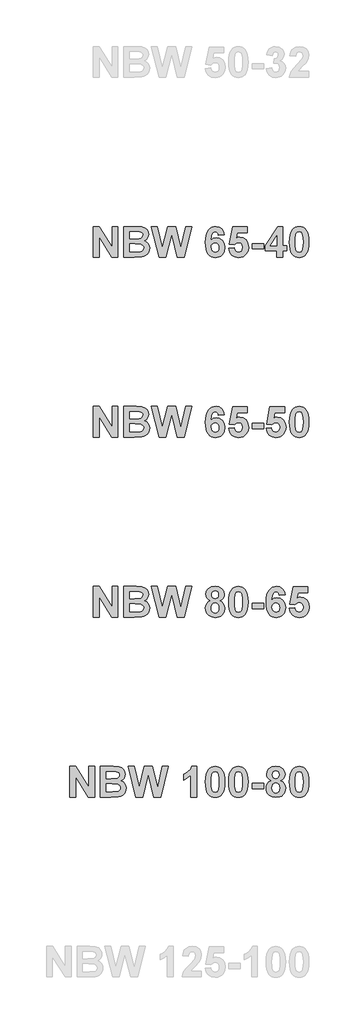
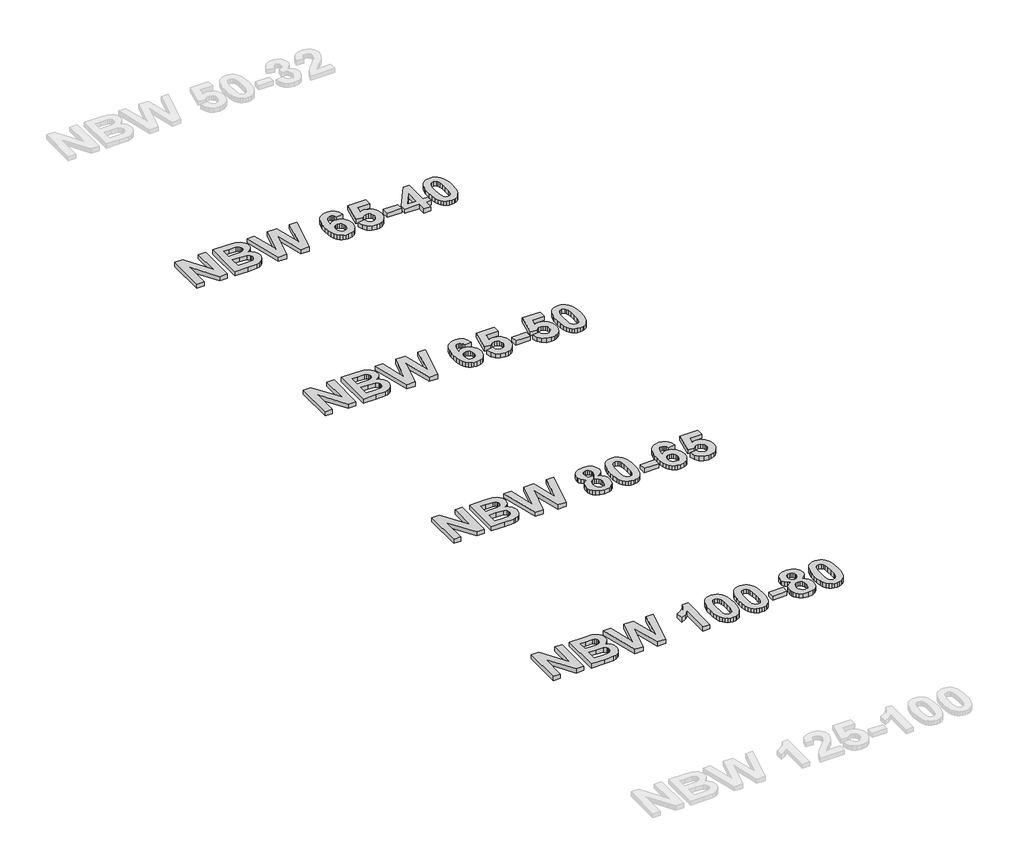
# One storey, part 4 of 9: 4 proxies.
"""IFC4 building model written with IfcOpenShell, lengths in millimetres."""

from ifc_helpers import new_model, si_unit, origin, origin_with_axes, place, context, project, spatial, polyline, outline, extrude, element, save

model = new_model("IFC4")

# Units and contexts
model_context = context("Model", 3, world=origin())
ifc_project = project(units=[si_unit("LENGTHUNIT", "METRE", prefix="MILLI")], contexts=[model_context])

# Site, building, storey
site = spatial("IfcSite", under=ifc_project)
building = spatial("IfcBuilding", under=site)
storey = spatial("IfcBuildingStorey", under=building, Name="Этаж 01", Elevation=0.0)

# Proxies
placement = place(None, origin())
element("IfcBuildingElementProxy", 1, Name="Wellmix_Надпись1", ObjectType="Wellmix_Надпись1", at=placement, inside=storey, context=model_context, shape_type="SweptSolid", body=[
    extrude(outline(polyline([(23054.8220227, -51106.2393741), (23054.8220227, -50851.1745242), (23105.7464286, -50851.1745242), (23212.7193108, -51022.8625209), (23212.7193108, -50851.1745242), (23261.3030918, -50851.1745242), (23261.3030918, -51106.2393741), (23208.7971827, -51106.2393741), (23103.4058037, -50937.0817827), (23103.4058037, -51106.2393741), (23054.8220227, -51106.2393741)])), origin_with_axes(), (0.0, 0.0, 1.0), 30.0),
    extrude(outline(polyline([(23309.8868727, -50851.1745242), (23414.5823903, -50851.1745242), (23460.9204366, -50853.7049294), (23488.2488133, -50864.3010014), (23499.2956138, -50873.695131), (23508.3339051, -50885.746186), (23514.3594326, -50899.940178), (23516.3679418, -50915.7631184), (23513.9719643, -50933.0015042), (23506.7840319, -50948.784907), (23495.4841909, -50961.9588294), (23480.7524878, -50971.3687739), (23499.3825965, -50980.5098629), (23513.1416751, -50994.3954617), (23521.6343477, -51012.0924835), (23524.4652386, -51032.6678413), (23522.4330069, -51049.7559843), (23516.3363117, -51066.3538613), (23506.7207717, -51081.0618418), (23494.1320056, -51092.4802956), (23478.4197704, -51100.3799045), (23459.4338235, -51104.5313506), (23397.0593339, -51106.2393741), (23309.8868727, -51106.2393741), (23309.8868727, -50851.1745242)]), holes=[polyline([(23358.4706537, -50895.7096567), (23358.4706537, -50952.3907345), (23395.5410907, -50952.3907345), (23436.6601762, -50951.5683528), (23449.6047805, -50948.6109416), (23459.4654535, -50942.7751945), (23465.704484, -50934.345782), (23467.7841608, -50923.6073747), (23465.9891546, -50913.3355108), (23460.6041359, -50905.1670463), (23451.6923649, -50899.449912), (23439.3171017, -50896.5320384), (23390.9863612, -50895.7096567), (23358.4706537, -50895.7096567)]), polyline([(23358.4706537, -50996.925867), (23358.4706537, -51061.7042416), (23409.8378804, -51061.7042416), (23447.9204795, -51060.1859985), (23459.1649679, -51056.7936739), (23468.1004615, -51050.5388284), (23473.9362086, -51041.5479822), (23475.8814576, -51029.9476556), (23474.3790295, -51019.8892947), (23469.8717452, -51011.4756972), (23452.5384691, -51000.4051742), (23403.3220869, -50996.925867), (23358.4706537, -50996.925867)])]), origin_with_axes(), (0.0, 0.0, 1.0), 30.0),
    extrude(outline(polyline([(23604.8688657, -51106.2393741), (23540.6598322, -50851.1745242), (23590.5088158, -50851.1745242), (23631.7544215, -51026.4050883), (23676.0997737, -50851.1745242), (23741.4474895, -50851.1745242), (23785.6030612, -51029.3150543), (23826.8486669, -50851.1745242), (23876.6976505, -50851.1745242), (23813.437519, -51106.2393741), (23755.9340596, -51106.2393741), (23708.6787414, -50915.573338), (23660.4745212, -51106.2393741), (23604.8688657, -51106.2393741)])), origin_with_axes(), (0.0, 0.0, 1.0), 30.0),
    extrude(outline(polyline([(24147.9570941, -50918.8628648), (24099.3733132, -50924.0501956), (24096.400087, -50911.4535219), (24090.7699353, -50902.6366411), (24082.7675287, -50897.4414028), (24072.6775377, -50895.7096567), (24059.0766094, -50899.0703512), (24047.7530459, -50909.1524346), (24039.4501537, -50929.9887404), (24034.9112392, -50965.6121019), (24054.9330708, -50949.6231037), (24079.3198515, -50944.2934376), (24107.1464018, -50949.9868495), (24130.6554482, -50967.067085), (24146.6681689, -50993.1460742), (24152.0057425, -51025.8357471), (24146.5495562, -51060.2729811), (24139.7293233, -51074.6626842), (24130.1809972, -51087.1664445), (24118.4897341, -51097.2821349), (24105.2406904, -51104.507628), (24074.0692606, -51110.2880226), (24056.5382967, -51108.4218487), (24040.6362811, -51102.823327), (24026.363214, -51093.4924577), (24013.7190952, -51080.4292405), (24003.3681562, -51063.1157333), (23995.9746283, -51041.0339937), (23991.5385116, -51014.1840216), (23990.059806, -50982.5658172), (23991.6037486, -50950.1133697), (23996.2355764, -50922.5319524), (24003.9552893, -50899.8215652), (24014.7628874, -50881.9822082), (24028.0376306, -50868.5038464), (24043.1587789, -50858.8764452), (24060.1263323, -50853.1000044), (24078.9402907, -50851.1745242), (24104.2601583, -50855.5078432), (24124.803886, -50868.5078002), (24139.6700169, -50889.7632043), (24147.9570941, -50918.8628648)]), holes=[polyline([(24038.643587, -51024.7603248), (24041.2688824, -51042.1805835), (24049.1447688, -51055.0935579), (24060.3892572, -51063.088057), (24073.1203586, -51065.75289), (24085.0132633, -51063.5704155), (24094.7553236, -51057.0229919), (24101.2553021, -51045.4938329), (24103.4219616, -51028.3661523), (24101.0892442, -51010.6137779), (24094.0910922, -50998.34922), (24083.5978179, -50991.2087326), (24070.7797338, -50988.8285702), (24058.3412104, -50991.1059349), (24047.9744564, -50997.9380291), (24040.9763043, -51009.1983325), (24038.643587, -51024.7603248)])]), origin_with_axes(), (0.0, 0.0, 1.0), 30.0),
    extrude(outline(polyline([(24184.3949298, -51034.439125), (24228.9300624, -51029.3150543), (24233.073601, -51044.3867806), (24241.3290481, -51055.9475696), (24252.4312012, -51063.3015599), (24265.1148576, -51065.75289), (24279.3088496, -51063.1513171), (24291.1464017, -51055.3465984), (24299.1409008, -51042.3071038), (24301.8057338, -51024.0012033), (24299.3306812, -51006.8418926), (24291.9055232, -50994.5852421), (24280.5107921, -50987.2312519), (24266.1270197, -50984.7799218), (24247.3071306, -50989.8407323), (24230.5748258, -51005.0231638), (24188.4435783, -50998.7604108), (24216.7841171, -50855.2231726), (24338.2435695, -50855.2231726), (24338.2435695, -50903.8069535), (24256.0686588, -50903.8069535), (24246.2633384, -50950.1766299), (24261.7462556, -50942.7277494), (24277.5771035, -50940.2447892), (24305.6962319, -50945.9935537), (24329.1973707, -50963.239847), (24345.0914787, -50989.6588594), (24350.3895148, -51022.925781), (24345.9771206, -51051.8514761), (24332.7399381, -51077.5192745), (24319.5225244, -51091.8556018), (24303.9723933, -51102.0958355), (24286.0895449, -51108.2399758), (24265.8739791, -51110.2880226), (24234.8686072, -51105.1481369), (24210.1734334, -51089.7284798), (24192.9587701, -51065.6263698), (24184.3949298, -51034.439125)])), origin_with_axes(), (0.0, 0.0, 1.0), 30.0),
    extrude(outline(polyline([(24378.7300536, -51037.4123511), (24378.7300536, -50992.8772186), (24475.8976155, -50992.8772186), (24475.8976155, -51037.4123511), (24378.7300536, -51037.4123511)])), origin_with_axes(), (0.0, 0.0, 1.0), 30.0),
    extrude(outline(polyline([(24585.2111227, -51106.2393741), (24585.2111227, -51053.6069448), (24488.0435608, -51053.6069448), (24488.0435608, -51013.3102411), (24591.6636561, -50855.2231726), (24633.7949036, -50855.2231726), (24633.7949036, -51013.1204607), (24666.1840909, -51013.1204607), (24666.1840909, -51053.6069448), (24633.7949036, -51053.6069448), (24633.7949036, -51106.2393741), (24585.2111227, -51106.2393741)]), holes=[polyline([(24585.2111227, -51013.1204607), (24585.2111227, -50930.2496885), (24530.9339299, -51013.1204607), (24585.2111227, -51013.1204607)])]), origin_with_axes(), (0.0, 0.0, 1.0), 30.0),
    extrude(outline(polyline([(24771.4489497, -50851.1745242), (24788.580584, -50852.8192876), (24803.7274317, -50857.7535778), (24816.8894928, -50865.9773949), (24828.0667673, -50877.4907388), (24838.7221457, -50895.6187203), (24846.3331303, -50918.8786798), (24850.899721, -50947.2706176), (24852.4219179, -50980.7945335), (24850.8918135, -51014.2868193), (24846.3015002, -51042.7103871), (24838.650978, -51066.0652369), (24827.940247, -51084.3513687), (24816.8183252, -51095.6986547), (24803.6958017, -51103.8038591), (24788.5726765, -51108.6669817), (24771.4489497, -51110.2880226), (24754.1413731, -51108.5088314), (24738.5932189, -51103.1712578), (24724.8044871, -51094.2753018), (24712.7751777, -51081.8209634), (24703.0192793, -51064.8000343), (24696.0507805, -51042.2043061), (24691.8696812, -51014.0337788), (24690.4759814, -50980.2884524), (24692.0060858, -50946.9622244), (24696.5963991, -50918.6572694), (24704.2469213, -50895.3735872), (24714.9576523, -50877.111178), (24726.0795741, -50865.763892), (24739.2020977, -50857.6586876), (24754.3252228, -50852.795565), (24771.4489497, -50851.1745242)]), holes=[polyline([(24771.4489497, -50895.7096567), (24755.254356, -50901.0551378), (24748.9283429, -50908.5277408), (24744.2470931, -50920.2545877), (24740.3565951, -50944.4041429), (24739.0597624, -50980.7945335), (24740.2142598, -51016.7025656), (24743.677752, -51039.278525), (24748.9046203, -51052.5315225), (24755.3492462, -51060.470669), (24771.4489497, -51065.75289), (24787.6435433, -51060.4074089), (24793.9695565, -51052.9348059), (24798.6508062, -51041.207959), (24802.5413043, -51017.1849241), (24803.838137, -50980.7945335), (24802.6836396, -50944.926039), (24799.2201474, -50922.342172), (24793.993279, -50909.0496369), (24787.5486531, -50901.0551378), (24771.4489497, -50895.7096567)])]), origin_with_axes(), (0.0, 0.0, 1.0), 30.0),
])
element("IfcBuildingElementProxy", 2, Name="Wellmix_Надпись1", ObjectType="Wellmix_Надпись1", at=placement, inside=storey, context=model_context, shape_type="SweptSolid", body=[
    extrude(outline(polyline([(23054.8220227, -52606.2393741), (23054.8220227, -52351.1745242), (23105.7464286, -52351.1745242), (23212.7193108, -52522.8625209), (23212.7193108, -52351.1745242), (23261.3030918, -52351.1745242), (23261.3030918, -52606.2393741), (23208.7971827, -52606.2393741), (23103.4058037, -52437.0817827), (23103.4058037, -52606.2393741), (23054.8220227, -52606.2393741)])), origin_with_axes(), (0.0, 0.0, 1.0), 30.0),
    extrude(outline(polyline([(23309.8868727, -52351.1745242), (23414.5823903, -52351.1745242), (23460.9204366, -52353.7049294), (23488.2488133, -52364.3010014), (23499.2956138, -52373.695131), (23508.3339051, -52385.746186), (23514.3594326, -52399.940178), (23516.3679418, -52415.7631184), (23513.9719643, -52433.0015042), (23506.7840319, -52448.784907), (23495.4841909, -52461.9588294), (23480.7524878, -52471.3687739), (23499.3825965, -52480.5098629), (23513.1416751, -52494.3954617), (23521.6343477, -52512.0924835), (23524.4652386, -52532.6678413), (23522.4330069, -52549.7559843), (23516.3363117, -52566.3538613), (23506.7207717, -52581.0618418), (23494.1320056, -52592.4802956), (23478.4197704, -52600.3799045), (23459.4338235, -52604.5313506), (23397.0593339, -52606.2393741), (23309.8868727, -52606.2393741), (23309.8868727, -52351.1745242)]), holes=[polyline([(23358.4706537, -52395.7096567), (23358.4706537, -52452.3907345), (23395.5410907, -52452.3907345), (23436.6601762, -52451.5683528), (23449.6047805, -52448.6109416), (23459.4654535, -52442.7751945), (23465.704484, -52434.345782), (23467.7841608, -52423.6073747), (23465.9891546, -52413.3355108), (23460.6041359, -52405.1670463), (23451.6923649, -52399.449912), (23439.3171017, -52396.5320384), (23390.9863612, -52395.7096567), (23358.4706537, -52395.7096567)]), polyline([(23358.4706537, -52496.925867), (23358.4706537, -52561.7042416), (23409.8378804, -52561.7042416), (23447.9204795, -52560.1859985), (23459.1649679, -52556.7936739), (23468.1004615, -52550.5388284), (23473.9362086, -52541.5479822), (23475.8814576, -52529.9476556), (23474.3790295, -52519.8892947), (23469.8717452, -52511.4756972), (23452.5384691, -52500.4051742), (23403.3220869, -52496.925867), (23358.4706537, -52496.925867)])]), origin_with_axes(), (0.0, 0.0, 1.0), 30.0),
    extrude(outline(polyline([(23604.8688657, -52606.2393741), (23540.6598322, -52351.1745242), (23590.5088158, -52351.1745242), (23631.7544215, -52526.4050883), (23676.0997737, -52351.1745242), (23741.4474895, -52351.1745242), (23785.6030612, -52529.3150543), (23826.8486669, -52351.1745242), (23876.6976505, -52351.1745242), (23813.437519, -52606.2393741), (23755.9340596, -52606.2393741), (23708.6787414, -52415.573338), (23660.4745212, -52606.2393741), (23604.8688657, -52606.2393741)])), origin_with_axes(), (0.0, 0.0, 1.0), 30.0),
    extrude(outline(polyline([(24147.9570941, -52418.8628648), (24099.3733132, -52424.0501956), (24096.400087, -52411.4535219), (24090.7699353, -52402.6366411), (24082.7675287, -52397.4414028), (24072.6775377, -52395.7096567), (24059.0766094, -52399.0703512), (24047.7530459, -52409.1524346), (24039.4501537, -52429.9887404), (24034.9112392, -52465.6121019), (24054.9330708, -52449.6231037), (24079.3198515, -52444.2934376), (24107.1464018, -52449.9868495), (24130.6554482, -52467.067085), (24146.6681689, -52493.1460742), (24152.0057425, -52525.8357471), (24146.5495562, -52560.2729811), (24139.7293233, -52574.6626842), (24130.1809972, -52587.1664445), (24118.4897341, -52597.2821349), (24105.2406904, -52604.507628), (24074.0692606, -52610.2880226), (24056.5382967, -52608.4218487), (24040.6362811, -52602.823327), (24026.363214, -52593.4924577), (24013.7190952, -52580.4292405), (24003.3681562, -52563.1157333), (23995.9746283, -52541.0339937), (23991.5385116, -52514.1840216), (23990.059806, -52482.5658172), (23991.6037486, -52450.1133697), (23996.2355764, -52422.5319524), (24003.9552893, -52399.8215652), (24014.7628874, -52381.9822082), (24028.0376306, -52368.5038464), (24043.1587789, -52358.8764452), (24060.1263323, -52353.1000044), (24078.9402907, -52351.1745242), (24104.2601583, -52355.5078432), (24124.803886, -52368.5078002), (24139.6700169, -52389.7632043), (24147.9570941, -52418.8628648)]), holes=[polyline([(24038.643587, -52524.7603248), (24041.2688824, -52542.1805835), (24049.1447688, -52555.0935579), (24060.3892572, -52563.088057), (24073.1203586, -52565.75289), (24085.0132633, -52563.5704155), (24094.7553236, -52557.0229919), (24101.2553021, -52545.4938329), (24103.4219616, -52528.3661523), (24101.0892442, -52510.6137779), (24094.0910922, -52498.34922), (24083.5978179, -52491.2087326), (24070.7797338, -52488.8285702), (24058.3412104, -52491.1059349), (24047.9744564, -52497.9380291), (24040.9763043, -52509.1983325), (24038.643587, -52524.7603248)])]), origin_with_axes(), (0.0, 0.0, 1.0), 30.0),
    extrude(outline(polyline([(24184.3949298, -52534.439125), (24228.9300624, -52529.3150543), (24233.073601, -52544.3867806), (24241.3290481, -52555.9475696), (24252.4312012, -52563.3015599), (24265.1148576, -52565.75289), (24279.3088496, -52563.1513171), (24291.1464017, -52555.3465984), (24299.1409008, -52542.3071038), (24301.8057338, -52524.0012033), (24299.3306812, -52506.8418926), (24291.9055232, -52494.5852421), (24280.5107921, -52487.2312519), (24266.1270197, -52484.7799218), (24247.3071306, -52489.8407323), (24230.5748258, -52505.0231638), (24188.4435783, -52498.7604108), (24216.7841171, -52355.2231726), (24338.2435695, -52355.2231726), (24338.2435695, -52403.8069535), (24256.0686588, -52403.8069535), (24246.2633384, -52450.1766299), (24261.7462556, -52442.7277494), (24277.5771035, -52440.2447892), (24305.6962319, -52445.9935537), (24329.1973707, -52463.239847), (24345.0914787, -52489.6588594), (24350.3895148, -52522.925781), (24345.9771206, -52551.8514761), (24332.7399381, -52577.5192745), (24319.5225244, -52591.8556018), (24303.9723933, -52602.0958355), (24286.0895449, -52608.2399758), (24265.8739791, -52610.2880226), (24234.8686072, -52605.1481369), (24210.1734334, -52589.7284798), (24192.9587701, -52565.6263698), (24184.3949298, -52534.439125)])), origin_with_axes(), (0.0, 0.0, 1.0), 30.0),
    extrude(outline(polyline([(24378.7300536, -52537.4123511), (24378.7300536, -52492.8772186), (24475.8976155, -52492.8772186), (24475.8976155, -52537.4123511), (24378.7300536, -52537.4123511)])), origin_with_axes(), (0.0, 0.0, 1.0), 30.0),
    extrude(outline(polyline([(24496.1408576, -52534.439125), (24540.6759901, -52529.3150543), (24544.8195288, -52544.3867806), (24553.0749759, -52555.9475696), (24564.177129, -52563.3015599), (24576.8607853, -52565.75289), (24591.0547773, -52563.1513171), (24602.8923294, -52555.3465984), (24610.8868285, -52542.3071038), (24613.5516616, -52524.0012033), (24611.0766089, -52506.8418926), (24603.651451, -52494.5852421), (24592.2567198, -52487.2312519), (24577.8729474, -52484.7799218), (24559.0530583, -52489.8407323), (24542.3207536, -52505.0231638), (24500.189506, -52498.7604108), (24528.5300449, -52355.2231726), (24649.9894973, -52355.2231726), (24649.9894973, -52403.8069535), (24567.8145865, -52403.8069535), (24558.0092662, -52450.1766299), (24573.4921833, -52442.7277494), (24589.3230312, -52440.2447892), (24617.4421597, -52445.9935537), (24640.9432985, -52463.239847), (24656.8374065, -52489.6588594), (24662.1354425, -52522.925781), (24657.7230483, -52551.8514761), (24644.4858658, -52577.5192745), (24631.2684521, -52591.8556018), (24615.7183211, -52602.0958355), (24597.8354727, -52608.2399758), (24577.6199069, -52610.2880226), (24546.614535, -52605.1481369), (24521.9193612, -52589.7284798), (24504.7046979, -52565.6263698), (24496.1408576, -52534.439125)])), origin_with_axes(), (0.0, 0.0, 1.0), 30.0),
    extrude(outline(polyline([(24771.4489497, -52351.1745242), (24788.580584, -52352.8192876), (24803.7274317, -52357.7535778), (24816.8894928, -52365.9773949), (24828.0667673, -52377.4907388), (24838.7221457, -52395.6187203), (24846.3331303, -52418.8786798), (24850.899721, -52447.2706176), (24852.4219179, -52480.7945335), (24850.8918135, -52514.2868193), (24846.3015002, -52542.7103871), (24838.650978, -52566.0652369), (24827.940247, -52584.3513687), (24816.8183252, -52595.6986547), (24803.6958017, -52603.8038591), (24788.5726765, -52608.6669817), (24771.4489497, -52610.2880226), (24754.1413731, -52608.5088314), (24738.5932189, -52603.1712578), (24724.8044871, -52594.2753018), (24712.7751777, -52581.8209634), (24703.0192793, -52564.8000343), (24696.0507805, -52542.2043061), (24691.8696812, -52514.0337788), (24690.4759814, -52480.2884524), (24692.0060858, -52446.9622244), (24696.5963991, -52418.6572694), (24704.2469213, -52395.3735872), (24714.9576523, -52377.111178), (24726.0795741, -52365.763892), (24739.2020977, -52357.6586876), (24754.3252228, -52352.795565), (24771.4489497, -52351.1745242)]), holes=[polyline([(24771.4489497, -52395.7096567), (24755.254356, -52401.0551378), (24748.9283429, -52408.5277408), (24744.2470931, -52420.2545877), (24740.3565951, -52444.4041429), (24739.0597624, -52480.7945335), (24740.2142598, -52516.7025656), (24743.677752, -52539.278525), (24748.9046203, -52552.5315225), (24755.3492462, -52560.470669), (24771.4489497, -52565.75289), (24787.6435433, -52560.4074089), (24793.9695565, -52552.9348059), (24798.6508062, -52541.207959), (24802.5413043, -52517.1849241), (24803.838137, -52480.7945335), (24802.6836396, -52444.926039), (24799.2201474, -52422.342172), (24793.993279, -52409.0496369), (24787.5486531, -52401.0551378), (24771.4489497, -52395.7096567)])]), origin_with_axes(), (0.0, 0.0, 1.0), 30.0),
])
element("IfcBuildingElementProxy", 3, Name="Wellmix_Надпись1", ObjectType="Wellmix_Надпись1", at=placement, inside=storey, context=model_context, shape_type="SweptSolid", body=[
    extrude(outline(polyline([(23054.8220227, -54106.2393741), (23054.8220227, -53851.1745242), (23105.7464286, -53851.1745242), (23212.7193108, -54022.8625209), (23212.7193108, -53851.1745242), (23261.3030918, -53851.1745242), (23261.3030918, -54106.2393741), (23208.7971827, -54106.2393741), (23103.4058037, -53937.0817827), (23103.4058037, -54106.2393741), (23054.8220227, -54106.2393741)])), origin_with_axes(), (0.0, 0.0, 1.0), 30.0),
    extrude(outline(polyline([(23309.8868727, -53851.1745242), (23414.5823903, -53851.1745242), (23460.9204366, -53853.7049294), (23488.2488133, -53864.3010014), (23499.2956138, -53873.695131), (23508.3339051, -53885.746186), (23514.3594326, -53899.940178), (23516.3679418, -53915.7631184), (23513.9719643, -53933.0015042), (23506.7840319, -53948.784907), (23495.4841909, -53961.9588294), (23480.7524878, -53971.3687739), (23499.3825965, -53980.5098629), (23513.1416751, -53994.3954617), (23521.6343477, -54012.0924835), (23524.4652386, -54032.6678413), (23522.4330069, -54049.7559843), (23516.3363117, -54066.3538613), (23506.7207717, -54081.0618418), (23494.1320056, -54092.4802956), (23478.4197704, -54100.3799045), (23459.4338235, -54104.5313506), (23397.0593339, -54106.2393741), (23309.8868727, -54106.2393741), (23309.8868727, -53851.1745242)]), holes=[polyline([(23358.4706537, -53895.7096567), (23358.4706537, -53952.3907345), (23395.5410907, -53952.3907345), (23436.6601762, -53951.5683528), (23449.6047805, -53948.6109416), (23459.4654535, -53942.7751945), (23465.704484, -53934.345782), (23467.7841608, -53923.6073747), (23465.9891546, -53913.3355108), (23460.6041359, -53905.1670463), (23451.6923649, -53899.449912), (23439.3171017, -53896.5320384), (23390.9863612, -53895.7096567), (23358.4706537, -53895.7096567)]), polyline([(23358.4706537, -53996.925867), (23358.4706537, -54061.7042416), (23409.8378804, -54061.7042416), (23447.9204795, -54060.1859985), (23459.1649679, -54056.7936739), (23468.1004615, -54050.5388284), (23473.9362086, -54041.5479822), (23475.8814576, -54029.9476556), (23474.3790295, -54019.8892947), (23469.8717452, -54011.4756972), (23452.5384691, -54000.4051742), (23403.3220869, -53996.925867), (23358.4706537, -53996.925867)])]), origin_with_axes(), (0.0, 0.0, 1.0), 30.0),
    extrude(outline(polyline([(23604.8688657, -54106.2393741), (23540.6598322, -53851.1745242), (23590.5088158, -53851.1745242), (23631.7544215, -54026.4050883), (23676.0997737, -53851.1745242), (23741.4474895, -53851.1745242), (23785.6030612, -54029.3150543), (23826.8486669, -53851.1745242), (23876.6976505, -53851.1745242), (23813.437519, -54106.2393741), (23755.9340596, -54106.2393741), (23708.6787414, -53915.573338), (23660.4745212, -54106.2393741), (23604.8688657, -54106.2393741)])), origin_with_axes(), (0.0, 0.0, 1.0), 30.0),
    extrude(outline(polyline([(24032.6971346, -53969.4077098), (24015.2215233, -53959.9345051), (24003.2811735, -53947.4564442), (23996.4016342, -53932.7959088), (23994.1084545, -53916.7752805), (23999.1139124, -53890.783274), (24014.1302861, -53869.7413727), (24038.3668239, -53855.8162363), (24071.0327743, -53851.1745242), (24103.5010368, -53855.8162363), (24127.7771122, -53869.7413727), (24142.9120986, -53890.783274), (24147.9570941, -53916.7752805), (24145.4029663, -53933.5154927), (24137.7405829, -53948.310456), (24125.4443948, -53960.4959388), (24108.9888532, -53969.4077098), (24127.5319792, -53979.8140015), (24141.0301097, -53994.0791611), (24149.2618343, -54011.5231423), (24152.0057425, -54031.4658988), (24146.5653712, -54063.2224848), (24139.7649071, -54076.6336326), (24130.2442573, -54088.4000171), (24118.4660116, -54097.9760195), (24104.8927596, -54104.8160212), (24072.361237, -54110.2880226), (24041.5851831, -54105.7649232), (24016.4392809, -54092.195625), (24004.8982606, -54080.5122694), (23996.6546747, -54066.8441273), (23991.7085232, -54051.1911985), (23990.059806, -54033.5534831), (23992.6297489, -54013.8874898), (24000.3395774, -53995.8820748), (24013.5688524, -53980.6759207), (24032.6971346, -53969.4077098)]), holes=[polyline([(24042.6922354, -53919.7485066), (24044.6137619, -53933.4364176), (24050.3783414, -53943.7557265), (24059.3375575, -53950.2319825), (24070.8429939, -53952.3907345), (24082.5144881, -53950.2082599), (24091.592317, -53943.6608363), (24097.4280641, -53933.2703597), (24099.3733132, -53919.5587262), (24097.4517867, -53906.5113241), (24091.6872072, -53896.342258), (24082.7596212, -53889.7948344), (24071.3490749, -53887.6123599), (24059.5826905, -53889.8106494), (24050.4732316, -53896.4055181), (24044.6374844, -53906.6378444), (24042.6922354, -53919.7485066)]), polyline([(24038.643587, -54029.4415746), (24041.0000269, -54048.0795908), (24048.0693466, -54062.1154325), (24058.6654186, -54070.9164982), (24071.6021155, -54073.8501868), (24084.1987891, -54071.0272035), (24094.4073929, -54062.5582534), (24101.1683194, -54048.7754522), (24103.4219616, -54030.0109158), (24101.1287818, -54013.2390734), (24094.2492425, -54000.1205036), (24083.8429509, -53991.6515535), (24070.9695142, -53988.8285702), (24056.7280771, -53992.0311143), (24046.6459936, -54001.6387468), (24040.6441886, -54014.9945421), (24038.643587, -54029.4415746)])]), origin_with_axes(), (0.0, 0.0, 1.0), 30.0),
    extrude(outline(polyline([(24265.3678981, -53851.1745242), (24282.4995324, -53852.8192876), (24297.6463802, -53857.7535778), (24310.8084413, -53865.9773949), (24321.9857157, -53877.4907388), (24332.6410941, -53895.6187203), (24340.2520787, -53918.8786798), (24344.8186694, -53947.2706176), (24346.3408663, -53980.7945335), (24344.8107619, -54014.2868193), (24340.2204486, -54042.7103871), (24332.5699265, -54066.0652369), (24321.8591955, -54084.3513687), (24310.7372736, -54095.6986547), (24297.6147501, -54103.8038591), (24282.4916249, -54108.6669817), (24265.3678981, -54110.2880226), (24248.0603215, -54108.5088314), (24232.5121673, -54103.1712578), (24218.7234355, -54094.2753018), (24206.6941262, -54081.8209634), (24196.9382278, -54064.8000343), (24189.9697289, -54042.2043061), (24185.7886296, -54014.0337788), (24184.3949298, -53980.2884524), (24185.9250343, -53946.9622244), (24190.5153476, -53918.6572694), (24198.1658697, -53895.3735872), (24208.8766007, -53877.111178), (24219.9985226, -53865.763892), (24233.1210461, -53857.6586876), (24248.2441713, -53852.795565), (24265.3678981, -53851.1745242)]), holes=[polyline([(24265.3678981, -53895.7096567), (24249.1733044, -53901.0551378), (24242.8472913, -53908.5277408), (24238.1660416, -53920.2545877), (24234.2755435, -53944.4041429), (24232.9787108, -53980.7945335), (24234.1332082, -54016.7025656), (24237.5967004, -54039.278525), (24242.8235687, -54052.5315225), (24249.2681946, -54060.470669), (24265.3678981, -54065.75289), (24281.5624917, -54060.4074089), (24287.8885049, -54052.9348059), (24292.5697546, -54041.207959), (24296.4602527, -54017.1849241), (24297.7570854, -53980.7945335), (24296.602588, -53944.926039), (24293.1390958, -53922.342172), (24287.9122274, -53909.0496369), (24281.4676015, -53901.0551378), (24265.3678981, -53895.7096567)])]), origin_with_axes(), (0.0, 0.0, 1.0), 30.0),
    extrude(outline(polyline([(24378.7300536, -54037.4123511), (24378.7300536, -53992.8772186), (24475.8976155, -53992.8772186), (24475.8976155, -54037.4123511), (24378.7300536, -54037.4123511)])), origin_with_axes(), (0.0, 0.0, 1.0), 30.0),
    extrude(outline(polyline([(24654.0381457, -53918.8628648), (24605.4543647, -53924.0501956), (24602.4811386, -53911.4535219), (24596.8509869, -53902.6366411), (24588.8485802, -53897.4414028), (24578.7585893, -53895.7096567), (24565.157661, -53899.0703512), (24553.8340975, -53909.1524346), (24545.5312052, -53929.9887404), (24540.9922908, -53965.6121019), (24561.0141224, -53949.6231037), (24585.4009031, -53944.2934376), (24613.2274534, -53949.9868495), (24636.7364997, -53967.067085), (24652.7492205, -53993.1460742), (24658.0867941, -54025.8357471), (24652.6306078, -54060.2729811), (24645.8103748, -54074.6626842), (24636.2620488, -54087.1664445), (24624.5707857, -54097.2821349), (24611.3217419, -54104.507628), (24580.1503122, -54110.2880226), (24562.6193482, -54108.4218487), (24546.7173327, -54102.823327), (24532.4442655, -54093.4924577), (24519.8001468, -54080.4292405), (24509.4492078, -54063.1157333), (24502.0556799, -54041.0339937), (24497.6195632, -54014.1840216), (24496.1408576, -53982.5658172), (24497.6848002, -53950.1133697), (24502.3166279, -53922.5319524), (24510.0363409, -53899.8215652), (24520.8439389, -53881.9822082), (24534.1186821, -53868.5038464), (24549.2398304, -53858.8764452), (24566.2073838, -53853.1000044), (24585.0213423, -53851.1745242), (24610.3412099, -53855.5078432), (24630.8849376, -53868.5078002), (24645.7510685, -53889.7632043), (24654.0381457, -53918.8628648)]), holes=[polyline([(24544.7246386, -54024.7603248), (24547.349934, -54042.1805835), (24555.2258204, -54055.0935579), (24566.4703087, -54063.088057), (24579.2014102, -54065.75289), (24591.0943149, -54063.5704155), (24600.8363751, -54057.0229919), (24607.3363537, -54045.4938329), (24609.5030132, -54028.3661523), (24607.1702958, -54010.6137779), (24600.1721438, -53998.34922), (24589.6788695, -53991.2087326), (24576.8607853, -53988.8285702), (24564.422262, -53991.1059349), (24554.0555079, -53997.9380291), (24547.0573559, -54009.1983325), (24544.7246386, -54024.7603248)])]), origin_with_axes(), (0.0, 0.0, 1.0), 30.0),
    extrude(outline(polyline([(24690.4759814, -54034.439125), (24735.0111139, -54029.3150543), (24739.1546526, -54044.3867806), (24747.4100997, -54055.9475696), (24758.5122528, -54063.3015599), (24771.1959091, -54065.75289), (24785.3899011, -54063.1513171), (24797.2274532, -54055.3465984), (24805.2219523, -54042.3071038), (24807.8867854, -54024.0012033), (24805.4117327, -54006.8418926), (24797.9865748, -53994.5852421), (24786.5918436, -53987.2312519), (24772.2080712, -53984.7799218), (24753.3881821, -53989.8407323), (24736.6558774, -54005.0231638), (24694.5246298, -53998.7604108), (24722.8651687, -53855.2231726), (24844.3246211, -53855.2231726), (24844.3246211, -53903.8069535), (24762.1497103, -53903.8069535), (24752.34439, -53950.1766299), (24767.8273071, -53942.7277494), (24783.658155, -53940.2447892), (24811.7772835, -53945.9935537), (24835.2784223, -53963.239847), (24851.1725303, -53989.6588594), (24856.4705663, -54022.925781), (24852.0581722, -54051.8514761), (24838.8209896, -54077.5192745), (24825.6035759, -54091.8556018), (24810.0534449, -54102.0958355), (24792.1705965, -54108.2399758), (24771.9550307, -54110.2880226), (24740.9496588, -54105.1481369), (24716.254485, -54089.7284798), (24699.0398217, -54065.6263698), (24690.4759814, -54034.439125)])), origin_with_axes(), (0.0, 0.0, 1.0), 30.0),
])
element("IfcBuildingElementProxy", 4, Name="Wellmix_Надпись1", ObjectType="Wellmix_Надпись1", at=placement, inside=storey, context=model_context, shape_type="SweptSolid", body=[
    extrude(outline(polyline([(22860.4868989, -55606.2393741), (22860.4868989, -55351.1745242), (22911.4113048, -55351.1745242), (23018.384187, -55522.8625209), (23018.384187, -55351.1745242), (23066.967968, -55351.1745242), (23066.967968, -55606.2393741), (23014.4620589, -55606.2393741), (22909.0706799, -55437.0817827), (22909.0706799, -55606.2393741), (22860.4868989, -55606.2393741)])), origin_with_axes(), (0.0, 0.0, 1.0), 30.0),
    extrude(outline(polyline([(23115.5517489, -55351.1745242), (23220.2472665, -55351.1745242), (23266.5853128, -55353.7049294), (23293.9136895, -55364.3010014), (23304.96049, -55373.695131), (23313.9987813, -55385.746186), (23320.0243088, -55399.940178), (23322.032818, -55415.7631184), (23319.6368405, -55433.0015042), (23312.4489081, -55448.784907), (23301.1490671, -55461.9588294), (23286.417364, -55471.3687739), (23305.0474727, -55480.5098629), (23318.8065513, -55494.3954617), (23327.2992239, -55512.0924835), (23330.1301148, -55532.6678413), (23328.0978831, -55549.7559843), (23322.0011879, -55566.3538613), (23312.3856479, -55581.0618418), (23299.7968818, -55592.4802956), (23284.0846466, -55600.3799045), (23265.0986997, -55604.5313506), (23202.7242101, -55606.2393741), (23115.5517489, -55606.2393741), (23115.5517489, -55351.1745242)]), holes=[polyline([(23164.1355299, -55395.7096567), (23164.1355299, -55452.3907345), (23201.2059669, -55452.3907345), (23242.3250523, -55451.5683528), (23255.2696567, -55448.6109416), (23265.1303297, -55442.7751945), (23271.3693602, -55434.345782), (23273.449037, -55423.6073747), (23271.6540308, -55413.3355108), (23266.2690121, -55405.1670463), (23257.3572411, -55399.449912), (23244.9819779, -55396.5320384), (23196.6512374, -55395.7096567), (23164.1355299, -55395.7096567)]), polyline([(23164.1355299, -55496.925867), (23164.1355299, -55561.7042416), (23215.5027566, -55561.7042416), (23253.5853557, -55560.1859985), (23264.8298441, -55556.7936739), (23273.7653377, -55550.5388284), (23279.6010848, -55541.5479822), (23281.5463338, -55529.9476556), (23280.0439057, -55519.8892947), (23275.5366214, -55511.4756972), (23258.2033453, -55500.4051742), (23208.9869631, -55496.925867), (23164.1355299, -55496.925867)])]), origin_with_axes(), (0.0, 0.0, 1.0), 30.0),
    extrude(outline(polyline([(23410.5337419, -55606.2393741), (23346.3247084, -55351.1745242), (23396.173692, -55351.1745242), (23437.4192977, -55526.4050883), (23481.7646499, -55351.1745242), (23547.1123657, -55351.1745242), (23591.2679374, -55529.3150543), (23632.5135431, -55351.1745242), (23682.3625267, -55351.1745242), (23619.1023952, -55606.2393741), (23561.5989358, -55606.2393741), (23514.3436176, -55415.573338), (23466.1393974, -55606.2393741), (23410.5337419, -55606.2393741)])), origin_with_axes(), (0.0, 0.0, 1.0), 30.0),
    extrude(outline(polyline([(23917.1841346, -55606.2393741), (23868.6003537, -55606.2393741), (23868.6003537, -55423.9236753), (23840.5444854, -55447.8043749), (23807.8706275, -55464.5366797), (23807.8706275, -55415.9528988), (23827.3389329, -55406.8671624), (23848.4203717, -55392.1354593), (23866.8765151, -55373.1178823), (23878.4689342, -55351.1745242), (23917.1841346, -55351.1745242), (23917.1841346, -55606.2393741)])), origin_with_axes(), (0.0, 0.0, 1.0), 30.0),
    extrude(outline(polyline([(24071.0327743, -55351.1745242), (24088.1644086, -55352.8192876), (24103.3112564, -55357.7535778), (24116.4733175, -55365.9773949), (24127.6505919, -55377.4907388), (24138.3059703, -55395.6187203), (24145.9169549, -55418.8786798), (24150.4835456, -55447.2706176), (24152.0057425, -55480.7945335), (24150.4756381, -55514.2868193), (24145.8853248, -55542.7103871), (24138.2348027, -55566.0652369), (24127.5240717, -55584.3513687), (24116.4021498, -55595.6986547), (24103.2796263, -55603.8038591), (24088.1565011, -55608.6669817), (24071.0327743, -55610.2880226), (24053.7251977, -55608.5088314), (24038.1770435, -55603.1712578), (24024.3883117, -55594.2753018), (24012.3590024, -55581.8209634), (24002.603104, -55564.8000343), (23995.6346051, -55542.2043061), (23991.4535058, -55514.0337788), (23990.059806, -55480.2884524), (23991.5899105, -55446.9622244), (23996.1802238, -55418.6572694), (24003.8307459, -55395.3735872), (24014.5414769, -55377.111178), (24025.6633988, -55365.763892), (24038.7859223, -55357.6586876), (24053.9090475, -55352.795565), (24071.0327743, -55351.1745242)]), holes=[polyline([(24071.0327743, -55395.7096567), (24054.8381806, -55401.0551378), (24048.5121675, -55408.5277408), (24043.8309178, -55420.2545877), (24039.9404197, -55444.4041429), (24038.643587, -55480.7945335), (24039.7980844, -55516.7025656), (24043.2615766, -55539.278525), (24048.4884449, -55552.5315225), (24054.9330708, -55560.470669), (24071.0327743, -55565.75289), (24087.2273679, -55560.4074089), (24093.5533811, -55552.9348059), (24098.2346308, -55541.207959), (24102.1251289, -55517.1849241), (24103.4219616, -55480.7945335), (24102.2674642, -55444.926039), (24098.803972, -55422.342172), (24093.5771036, -55409.0496369), (24087.1324777, -55401.0551378), (24071.0327743, -55395.7096567)])]), origin_with_axes(), (0.0, 0.0, 1.0), 30.0),
    extrude(outline(polyline([(24265.3678981, -55351.1745242), (24282.4995324, -55352.8192876), (24297.6463802, -55357.7535778), (24310.8084413, -55365.9773949), (24321.9857157, -55377.4907388), (24332.6410941, -55395.6187203), (24340.2520787, -55418.8786798), (24344.8186694, -55447.2706176), (24346.3408663, -55480.7945335), (24344.8107619, -55514.2868193), (24340.2204486, -55542.7103871), (24332.5699265, -55566.0652369), (24321.8591955, -55584.3513687), (24310.7372736, -55595.6986547), (24297.6147501, -55603.8038591), (24282.4916249, -55608.6669817), (24265.3678981, -55610.2880226), (24248.0603215, -55608.5088314), (24232.5121673, -55603.1712578), (24218.7234355, -55594.2753018), (24206.6941262, -55581.8209634), (24196.9382278, -55564.8000343), (24189.9697289, -55542.2043061), (24185.7886296, -55514.0337788), (24184.3949298, -55480.2884524), (24185.9250343, -55446.9622244), (24190.5153476, -55418.6572694), (24198.1658697, -55395.3735872), (24208.8766007, -55377.111178), (24219.9985226, -55365.763892), (24233.1210461, -55357.6586876), (24248.2441713, -55352.795565), (24265.3678981, -55351.1745242)]), holes=[polyline([(24265.3678981, -55395.7096567), (24249.1733044, -55401.0551378), (24242.8472913, -55408.5277408), (24238.1660416, -55420.2545877), (24234.2755435, -55444.4041429), (24232.9787108, -55480.7945335), (24234.1332082, -55516.7025656), (24237.5967004, -55539.278525), (24242.8235687, -55552.5315225), (24249.2681946, -55560.470669), (24265.3678981, -55565.75289), (24281.5624917, -55560.4074089), (24287.8885049, -55552.9348059), (24292.5697546, -55541.207959), (24296.4602527, -55517.1849241), (24297.7570854, -55480.7945335), (24296.602588, -55444.926039), (24293.1390958, -55422.342172), (24287.9122274, -55409.0496369), (24281.4676015, -55401.0551378), (24265.3678981, -55395.7096567)])]), origin_with_axes(), (0.0, 0.0, 1.0), 30.0),
    extrude(outline(polyline([(24378.7300536, -55537.4123511), (24378.7300536, -55492.8772186), (24475.8976155, -55492.8772186), (24475.8976155, -55537.4123511), (24378.7300536, -55537.4123511)])), origin_with_axes(), (0.0, 0.0, 1.0), 30.0),
    extrude(outline(polyline([(24538.7781862, -55469.4077098), (24521.3025749, -55459.9345051), (24509.3622251, -55447.4564442), (24502.4826858, -55432.7959088), (24500.189506, -55416.7752805), (24505.1949639, -55390.783274), (24520.2113376, -55369.7413727), (24544.4478755, -55355.8162363), (24577.1138259, -55351.1745242), (24609.5820883, -55355.8162363), (24633.8581638, -55369.7413727), (24648.9931502, -55390.783274), (24654.0381457, -55416.7752805), (24651.4840179, -55433.5154927), (24643.8216345, -55448.310456), (24631.5254464, -55460.4959388), (24615.0699047, -55469.4077098), (24633.6130308, -55479.8140015), (24647.1111613, -55494.0791611), (24655.3428859, -55511.5231423), (24658.0867941, -55531.4658988), (24652.6464228, -55563.2224848), (24645.8459587, -55576.6336326), (24636.3253089, -55588.4000171), (24624.5470632, -55597.9760195), (24610.9738112, -55604.8160212), (24578.4422886, -55610.2880226), (24547.6662347, -55605.7649232), (24522.5203324, -55592.195625), (24510.9793122, -55580.5122694), (24502.7357263, -55566.8441273), (24497.7895748, -55551.1911985), (24496.1408576, -55533.5534831), (24498.7108004, -55513.8874898), (24506.420629, -55495.8820748), (24519.649904, -55480.6759207), (24538.7781862, -55469.4077098)]), holes=[polyline([(24548.773287, -55419.7485066), (24550.6948135, -55433.4364176), (24556.4593929, -55443.7557265), (24565.4186091, -55450.2319825), (24576.9240455, -55452.3907345), (24588.5955397, -55450.2082599), (24597.6733686, -55443.6608363), (24603.5091157, -55433.2703597), (24605.4543647, -55419.5587262), (24603.5328383, -55406.5113241), (24597.7682588, -55396.342258), (24588.8406727, -55389.7948344), (24577.4301265, -55387.6123599), (24565.6637421, -55389.8106494), (24556.5542831, -55396.4055181), (24550.718536, -55406.6378444), (24548.773287, -55419.7485066)]), polyline([(24544.7246386, -55529.4415746), (24547.0810785, -55548.0795908), (24554.1503981, -55562.1154325), (24564.7464702, -55570.9164982), (24577.683167, -55573.8501868), (24590.2798407, -55571.0272035), (24600.4884444, -55562.5582534), (24607.249371, -55548.7754522), (24609.5030132, -55530.0109158), (24607.2098334, -55513.2390734), (24600.3302941, -55500.1205036), (24589.9240025, -55491.6515535), (24577.0505657, -55488.8285702), (24562.8091286, -55492.0311143), (24552.7270452, -55501.6387468), (24546.7252402, -55514.9945421), (24544.7246386, -55529.4415746)])]), origin_with_axes(), (0.0, 0.0, 1.0), 30.0),
    extrude(outline(polyline([(24771.4489497, -55351.1745242), (24788.580584, -55352.8192876), (24803.7274317, -55357.7535778), (24816.8894928, -55365.9773949), (24828.0667673, -55377.4907388), (24838.7221457, -55395.6187203), (24846.3331303, -55418.8786798), (24850.899721, -55447.2706176), (24852.4219179, -55480.7945335), (24850.8918135, -55514.2868193), (24846.3015002, -55542.7103871), (24838.650978, -55566.0652369), (24827.940247, -55584.3513687), (24816.8183252, -55595.6986547), (24803.6958017, -55603.8038591), (24788.5726765, -55608.6669817), (24771.4489497, -55610.2880226), (24754.1413731, -55608.5088314), (24738.5932189, -55603.1712578), (24724.8044871, -55594.2753018), (24712.7751777, -55581.8209634), (24703.0192793, -55564.8000343), (24696.0507805, -55542.2043061), (24691.8696812, -55514.0337788), (24690.4759814, -55480.2884524), (24692.0060858, -55446.9622244), (24696.5963991, -55418.6572694), (24704.2469213, -55395.3735872), (24714.9576523, -55377.111178), (24726.0795741, -55365.763892), (24739.2020977, -55357.6586876), (24754.3252228, -55352.795565), (24771.4489497, -55351.1745242)]), holes=[polyline([(24771.4489497, -55395.7096567), (24755.254356, -55401.0551378), (24748.9283429, -55408.5277408), (24744.2470931, -55420.2545877), (24740.3565951, -55444.4041429), (24739.0597624, -55480.7945335), (24740.2142598, -55516.7025656), (24743.677752, -55539.278525), (24748.9046203, -55552.5315225), (24755.3492462, -55560.470669), (24771.4489497, -55565.75289), (24787.6435433, -55560.4074089), (24793.9695565, -55552.9348059), (24798.6508062, -55541.207959), (24802.5413043, -55517.1849241), (24803.838137, -55480.7945335), (24802.6836396, -55444.926039), (24799.2201474, -55422.342172), (24793.993279, -55409.0496369), (24787.5486531, -55401.0551378), (24771.4489497, -55395.7096567)])]), origin_with_axes(), (0.0, 0.0, 1.0), 30.0),
])

save(model, "model.ifc")
